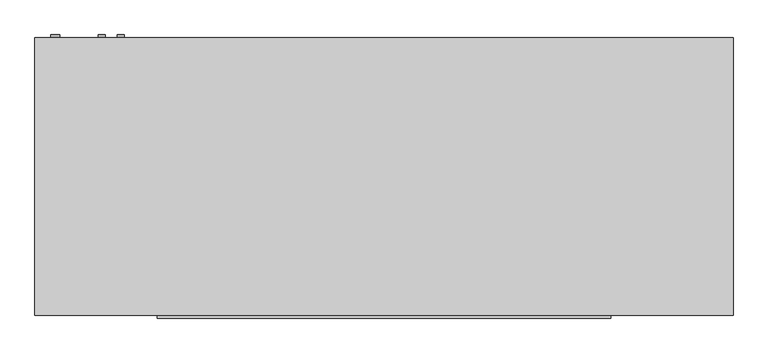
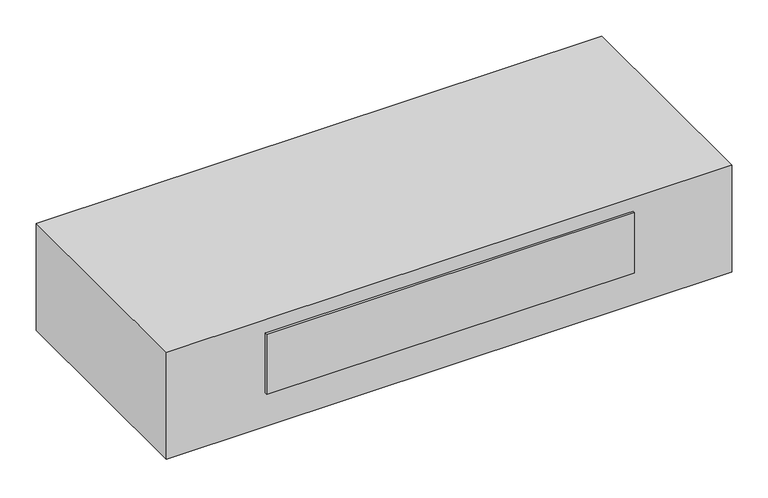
"""IFC4 building model written with IfcOpenShell, lengths in millimetres: proxy geometry, Exposed_Horizontal_Fan_Coil_Unit_-_42CGB_-_CARRIER_-_2-Pipe_Cool-EHeat_FS-BR_LH_2022 : Size 08 - 277v/60Hz/1Ph - 4 Row 6.0kW."""

from ifc_helpers import new_model, si_unit, point, frame, frame_2d, origin, place, context, project, spatial, polyline, circle_curve, trimmed, segment, composite_curve, outline, extrude, source, transform, mapped, element, save


def mechanical_equipment_d7096ecd(model_context):
    return source(origin(), model_context, "Body", "SweptSolid", [
        extrude(outline(composite_curve([segment(trimmed(circle_curve(frame_2d((-60.325, -422.275)), 7.9375), [point((-60.325, -414.3375))], [point((-60.325, -430.2125))], False, "CARTESIAN"), True, "CONTINUOUS"), segment(trimmed(circle_curve(frame_2d((-60.325, -422.275)), 7.9375), [point((-60.325, -430.2125))], [point((-60.325, -414.3375))], False, "CARTESIAN"), True, "CONTINUOUS")], self_intersect=False)), frame((0.0, 65.0875, 0.0), z_axis=(0.0, 1.0, 0.0), x_axis=(0.0, 0.0, 1.0)), (0.0, 0.0, 1.0), 6.35),
        extrude(outline(composite_curve([segment(trimmed(circle_curve(frame_2d((-95.25, -463.55)), 7.9375), [point((-95.25, -455.6125))], [point((-95.25, -471.4875))], False, "CARTESIAN"), True, "CONTINUOUS"), segment(trimmed(circle_curve(frame_2d((-95.25, -463.55)), 7.9375), [point((-95.25, -471.4875))], [point((-95.25, -455.6125))], False, "CARTESIAN"), True, "CONTINUOUS")], self_intersect=False)), frame((0.0, 65.0875, 0.0), z_axis=(0.0, 1.0, 0.0), x_axis=(0.0, 0.0, 1.0)), (0.0, 0.0, 1.0), 6.35),
        extrude(outline(composite_curve([segment(trimmed(circle_curve(frame_2d((-260.35, -565.15)), 9.525), [point((-260.35, -555.625))], [point((-260.35, -574.675))], False, "CARTESIAN"), True, "CONTINUOUS"), segment(trimmed(circle_curve(frame_2d((-260.35, -565.15)), 9.525), [point((-260.35, -574.675))], [point((-260.35, -555.625))], False, "CARTESIAN"), True, "CONTINUOUS")], self_intersect=False)), frame((0.0, 65.0875, 0.0), z_axis=(0.0, 1.0, 0.0), x_axis=(0.0, 0.0, 1.0)), (0.0, 0.0, 1.0), 6.35),
        extrude(outline(polyline([(-609.6, 65.0875), (914.4, 65.0875), (914.4, -541.3375), (-609.6, -541.3375), (-609.6, 65.0875)])), frame((0.0, 0.0, -304.8), z_axis=(0.0, 0.0, 1.0), x_axis=(1.0, 0.0, 0.0)), (0.0, 0.0, 1.0), 304.8),
        extrude(outline(polyline([(647.7, -547.6875), (-342.9, -547.6875), (-342.9, -541.3375), (647.7, -541.3375), (647.7, -547.6875)])), frame((0.0, 0.0, -209.55), z_axis=(0.0, 0.0, 1.0), x_axis=(1.0, 0.0, 0.0)), (0.0, 0.0, 1.0), 171.45),
        extrude(outline(polyline([(673.1, -11.1125), (673.1, -265.1125), (-368.3, -265.1125), (-368.3, -11.1125), (673.1, -11.1125)])), frame((0.0, 0.0, -311.15), z_axis=(0.0, 0.0, 1.0), x_axis=(1.0, 0.0, 0.0)), (0.0, 0.0, 1.0), 6.35),
    ])


if __name__ == "__main__":
    model = new_model("IFC4")
    model_context = context("Model", 3, world=origin())
    ifc_project = project(units=[si_unit("LENGTHUNIT", "METRE", prefix="MILLI")], contexts=[model_context])
    site = spatial("IfcSite", under=ifc_project)
    building = spatial("IfcBuilding", under=site)
    placement = place(None, origin())
    mechanical_equipment_shape = mechanical_equipment_d7096ecd(model_context)
    element("IfcBuildingElementProxy", 1, Name="Exposed_Horizontal_Fan_Coil_Unit_-_42CGB_-_CARRIER_-_2-Pipe_Cool-EHeat_FS-BR_LH_2022 : Size 08 - 277v/60Hz/1Ph - 4 Row 6.0kW", ObjectType="Exposed_Horizontal_Fan_Coil_Unit_-_42CGB_-_CARRIER_-_2-Pipe_Cool-EHeat_FS-BR_LH_2022 : Size 08 - 277v/60Hz/1Ph - 4 Row 6.0kW", at=placement, inside=building, context=model_context, shape_type="MappedRepresentation", body=[
        mapped(mechanical_equipment_shape, transform((0.0, 0.0, 0.0), x_axis=(1.0, 0.0, 0.0), y_axis=(0.0, 1.0, 0.0), z_axis=(0.0, 0.0, 1.0))),
    ])
    save(model, "model.ifc")
